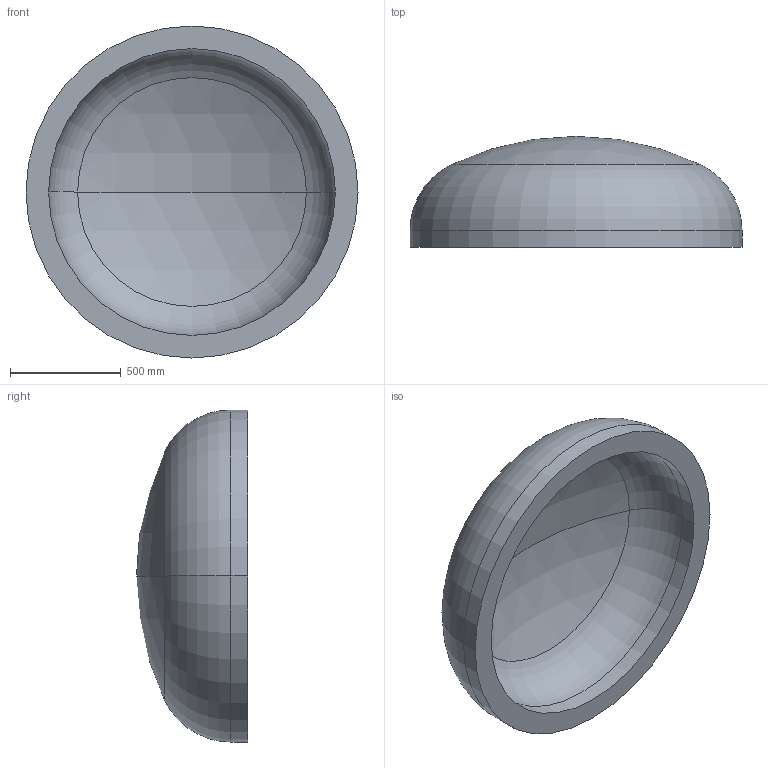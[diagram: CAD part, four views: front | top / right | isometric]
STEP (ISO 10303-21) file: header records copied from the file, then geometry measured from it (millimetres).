
FILE_DESCRIPTION (( 'STEP AP203' ), '1' );
FILE_NAME ('DIN 28013 Korbbogenform_-_Boden DIN 28013 - 1500 x 75 - I - s=102.step', '2016-07-01T10:58:24', ( '' ), ( '' ), 'SwSTEP 2.0', 'SolidWorks 2013', '' );
FILE_SCHEMA (( 'CONFIG_CONTROL_DESIGN' ));
Length unit declared in the file: millimetre
Products named in the file (1): DIN 28013 Korbbogenform_-_Boden DIN 28013 - 1500 x 75 - I - s=102
Bounding box: 1500 x 501.69 x 1500 mm (x, y, z)
Volume: 262431625.3 mm3; surface area: 5615485.6 mm2
Topology: 1 solids, 1 shells, 13 faces, 24 edges, 14 vertices
Faces by surface type: torus 4, cylinder 4, sphere 4, plane 1
Entity records: 407 total; most frequent: DIRECTION 72, CARTESIAN_POINT 52, ORIENTED_EDGE 48, AXIS2_PLACEMENT_3D 34, EDGE_CURVE 24, CIRCLE 20, VERTEX_POINT 14, EDGE_LOOP 14
